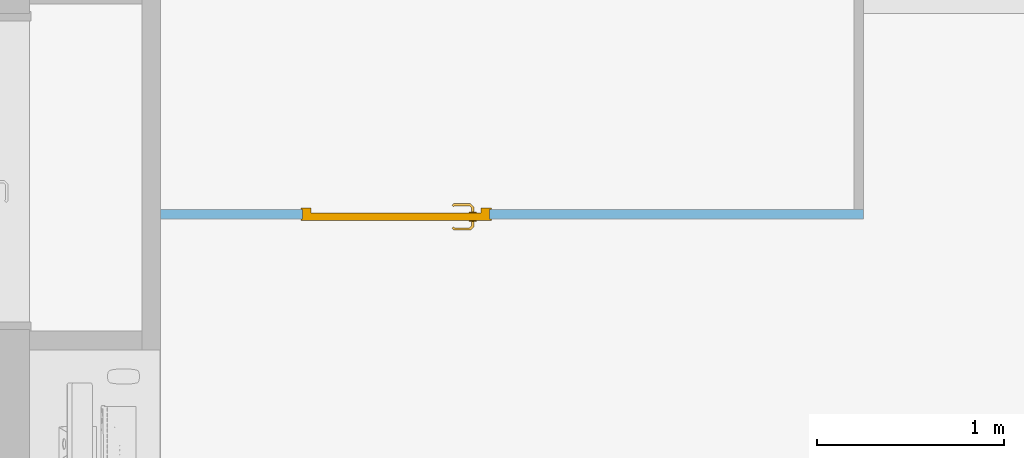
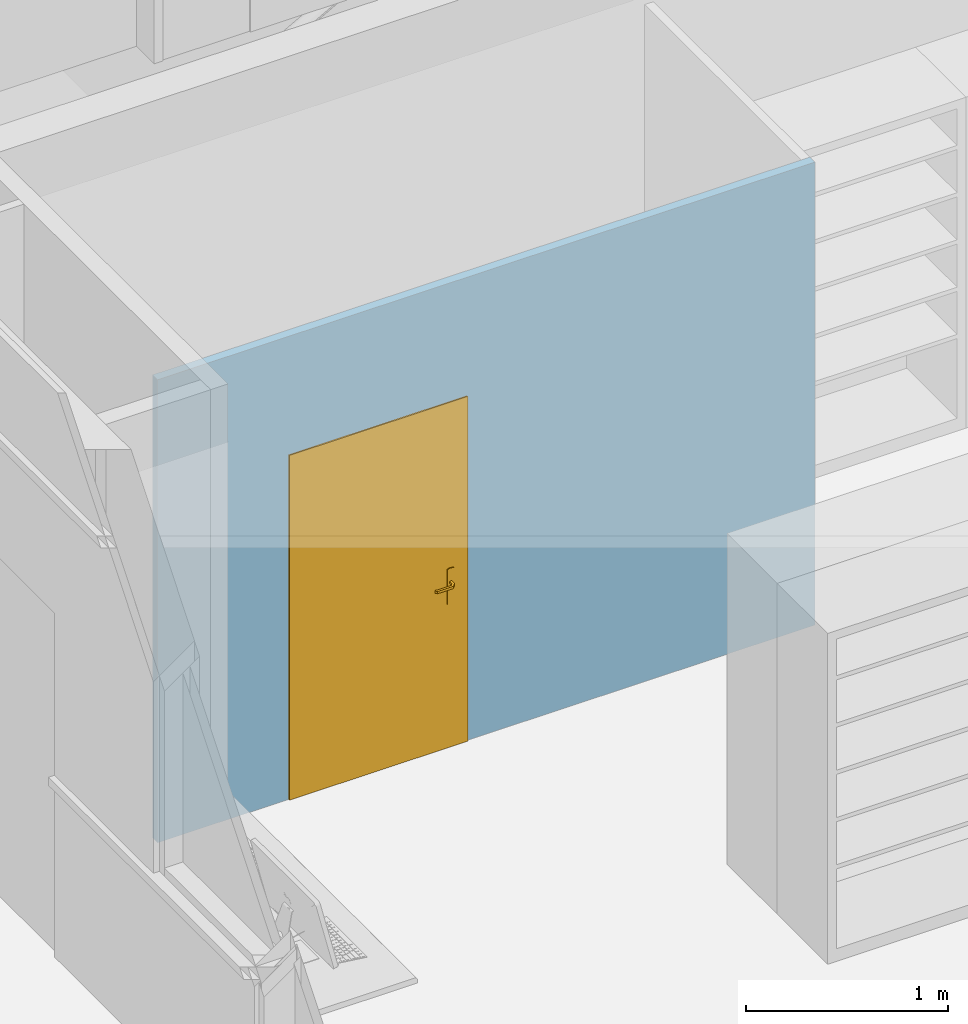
# One storey, part 98 of 137: 1 door, 1 opening, plus 1 element that does not belong to this part.
"""IFC2X3 building model written with IfcOpenShell, lengths in centimetres."""

from ifc_helpers import new_model, entity, si_unit, converted_unit, derived_unit, direction, frame, frame_2d, origin, place, context, subcontext, project, spatial, rectangle, extrude, faceted_brep, source, transform, mapped, material, material_list, layer, layer_set, layer_usage, type_object, type_shapes, element, fill, save


model = new_model("IFC2X3")

# Units and contexts
model_context = context("Model", 3, precision=0.001, world=origin(), true_north=direction((6.12303176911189e-17, 1.0)))
body_context = subcontext(model_context, "Body", "Model", "MODEL_VIEW")
ifc_project = project(units=[si_unit("LENGTHUNIT", "METRE", prefix="CENTI"), si_unit("AREAUNIT", "SQUARE_METRE"), si_unit("VOLUMEUNIT", "CUBIC_METRE"), converted_unit("PLANEANGLEUNIT", "DEGREE", entity("IfcRatioMeasure", 0.0174532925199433), si_unit("PLANEANGLEUNIT", "RADIAN"), dimensions=[0, 0, 0, 0, 0, 0, 0]), si_unit("MASSUNIT", "GRAM", prefix="KILO"), si_unit("TIMEUNIT", "SECOND"), si_unit("FREQUENCYUNIT", "HERTZ"), si_unit("THERMODYNAMICTEMPERATUREUNIT", "DEGREE_CELSIUS"), derived_unit("THERMALTRANSMITTANCEUNIT", [(si_unit("MASSUNIT", "GRAM", prefix="KILO"), 1), (si_unit("THERMODYNAMICTEMPERATUREUNIT", "KELVIN"), -1), (si_unit("TIMEUNIT", "SECOND"), -3)]), derived_unit("VOLUMETRICFLOWRATEUNIT", [(si_unit("LENGTHUNIT", "METRE"), 3), (si_unit("TIMEUNIT", "SECOND"), -1)]), si_unit("ELECTRICCURRENTUNIT", "AMPERE"), si_unit("ELECTRICVOLTAGEUNIT", "VOLT"), si_unit("POWERUNIT", "WATT"), si_unit("FORCEUNIT", "NEWTON", prefix="KILO"), si_unit("ILLUMINANCEUNIT", "LUX"), si_unit("LUMINOUSFLUXUNIT", "LUMEN"), si_unit("LUMINOUSINTENSITYUNIT", "CANDELA"), derived_unit("USERDEFINED", [(si_unit("MASSUNIT", "GRAM", prefix="KILO"), -1), (si_unit("LENGTHUNIT", "METRE"), -2), (si_unit("TIMEUNIT", "SECOND"), 3), (si_unit("LUMINOUSFLUXUNIT", "LUMEN"), 1)]), derived_unit("LINEARVELOCITYUNIT", [(si_unit("LENGTHUNIT", "METRE"), 1), (si_unit("TIMEUNIT", "SECOND"), -1)]), si_unit("PRESSUREUNIT", "PASCAL"), derived_unit("USERDEFINED", [(si_unit("LENGTHUNIT", "METRE"), -2), (si_unit("MASSUNIT", "GRAM", prefix="KILO"), 1), (si_unit("TIMEUNIT", "SECOND"), -2)])], contexts=[model_context])

# Site, building, storey
site_placement = place(None, frame((8.62739174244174, -249.285249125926, 0.0)))
site = spatial("IfcSite", under=ifc_project, at=site_placement, Name="Default", CompositionType="ELEMENT")
building_placement = place(site_placement, origin())
building = spatial("IfcBuilding", under=site, at=building_placement, CompositionType="ELEMENT")
storey_placement = place(building_placement, origin())
storey = spatial("IfcBuildingStorey", under=building, at=storey_placement, Name="RDC", CompositionType="ELEMENT", Elevation=-8.82465566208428e-11)

# Wall, opening, door
ifc_material_1 = material(Name="Plâtre")
ifc_layer = layer(ifc_material_1, 5.0)
ifc_layer_set = layer_set([ifc_layer], Name="Mur de base:PLA 5")
ifc_layer_usage = layer_usage(ifc_layer_set, "AXIS2", "NEGATIVE", 2.5)
wall_type = type_object("IfcWallType", Name="Mur de base:PLA 5", PredefinedType="STANDARD", material=ifc_layer_set)
wall_placement = place(storey_placement, frame((3123.9048277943, 4525.48020813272, 0.0)))
wall = element("IfcWallStandardCase", 1, at=wall_placement, inside=storey, type_object=wall_type, material=ifc_layer_usage, Name="Mur de base:PLA 5", ObjectType="Mur de base:PLA 5", context=body_context, shape_type="SweptSolid", body=[
    extrude(rectangle(XDim=376.000000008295, YDim=5.0000000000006, at=frame_2d((188.000000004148, 0.0), x_axis=(-1.0, 0.0))), origin(), (0.0, 0.0, 1.0), 279.999999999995),
])
opening_placement = place(wall_placement, frame((176.0, 2.5, 0.0)))
opening = element("IfcOpeningElement", 2, at=opening_placement, cuts=wall, Name="Simple(R)_bois_mu:93 x 204 cm:1", ObjectType="Opening", context=body_context, shape_type="SweptSolid", body=[
    extrude(rectangle(XDim=207.499999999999, YDim=99.9999999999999, at=frame_2d((103.749999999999, 50.0), x_axis=(1.0, 0.0))), frame((0.0, 0.0, 0.0), z_axis=(0.0, -1.0, 0.0), x_axis=(0.0, 0.0, 1.0)), (0.0, 0.0, 1.0), 5.0),
])
ifc_material_2 = material(Name="Porte - Poignée")
ifc_material_3 = material(Name="Porte - Cadre")
ifc_material_4 = material(Name="Porte - Panneau")
ifc_material_list_1 = material_list([ifc_material_2, ifc_material_3, ifc_material_4])
ifc_material_list_2 = material_list([ifc_material_2, ifc_material_3, ifc_material_4])
door_style = type_object("IfcDoorStyle", Name="93 x 204 cm", ConstructionType="NOTDEFINED", OperationType="SINGLE_SWING_LEFT", ParameterTakesPrecedence=False, Sizeable=False, material=ifc_material_list_2)
shared_shape = source(origin(), body_context, "Body", "Brep", [
    faceted_brep([(92.2025298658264, 3.69999999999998, 100.778044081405), (91.7974701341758, 3.69999999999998, 100.778044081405), (91.3999999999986, 3.69999999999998, 100.699999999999), (91.4000000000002, 3.69999999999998, 99.3000000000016), (91.7974701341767, 3.69999999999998, 99.2219559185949), (92.2025298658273, 3.69999999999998, 99.2219559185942), (92.6000000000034, 3.69999999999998, 99.2999999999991), (92.600000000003, 3.69999999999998, 100.699999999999), (91.3999999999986, 5.94852045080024, 100.699999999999), (91.3999999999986, 5.94852045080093, 99.3000000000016), (91.7974701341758, 6.1131579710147, 100.778044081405), (92.2025298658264, 6.2809392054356, 100.778044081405), (90.5838906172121, 7.89957845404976, 100.778044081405), (90.4161093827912, 7.49451872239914, 100.778044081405), (82.0793122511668, 7.49451872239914, 100.778044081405), (81.911531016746, 7.89957845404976, 100.778044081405), (81.1451046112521, 7.13315204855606, 100.778044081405), (81.4315250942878, 6.84673156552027, 100.778044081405), (92.600000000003, 6.44557672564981, 100.699999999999), (92.6000000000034, 6.44557672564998, 99.2999999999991), (92.2025298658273, 6.28093920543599, 99.2219559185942), (91.7974701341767, 6.11315797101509, 99.2219559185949), (90.4161093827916, 7.49451872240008, 99.2219559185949), (90.5838906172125, 7.8995784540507, 99.2219559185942), (81.9115310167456, 7.8995784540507, 99.2219559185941), (82.0793122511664, 7.49451872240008, 99.2219559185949), (81.4315250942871, 6.84673156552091, 99.2219559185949), (81.1451046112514, 7.13315204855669, 99.2219559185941), (90.2514718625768, 7.09704858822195, 100.699999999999), (90.2514718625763, 7.09704858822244, 99.3000000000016), (90.7485281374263, 8.29704858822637, 100.699999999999), (90.7485281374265, 8.29704858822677, 99.2999999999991), (86.247710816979, 7.09704858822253, 100.699999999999), (82.2439497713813, 7.09704858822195, 100.699999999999), (82.2439497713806, 7.09704858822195, 99.3000000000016), (86.247710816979, 7.09704858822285, 99.3000000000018), (86.2477108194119, 7.71249275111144, 100.787811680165), (85.7399422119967, 8.29704858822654, 100.699999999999), (81.7468934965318, 8.29704858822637, 100.699999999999), (86.7554791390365, 8.29704858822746, 99.2999999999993), (81.7468934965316, 8.29704858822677, 99.2999999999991), (86.2477107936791, 7.71249274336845, 99.2121883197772), (80.8640507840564, 7.41420587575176, 100.699999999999), (80.8640507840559, 7.41420587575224, 99.2999999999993), (81.7125789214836, 6.5656777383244, 99.3000000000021), (81.7125789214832, 6.56567773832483, 100.699999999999)], [[[0, 1, 2, 3, 4, 5, 6, 7]], [[8, 9, 3, 2]], [[1, 10, 8, 2]], [[1, 0, 11, 12, 13, 10]], [[14, 15, 16, 17]], [[7, 18, 11, 0]], [[18, 7, 6, 19]], [[6, 5, 20, 19]], [[5, 4, 21, 22, 23, 20]], [[24, 25, 26, 27]], [[4, 3, 9, 21]], [[28, 29, 9, 8]], [[8, 10, 13, 28]], [[18, 30, 12, 11]], [[31, 30, 18, 19]], [[19, 20, 23, 31]], [[21, 9, 29, 22]], [[29, 28, 32, 33, 34, 35]], [[36, 32, 13]], [[37, 38, 15]], [[37, 12, 30]], [[36, 12, 37]], [[14, 32, 36]], [[36, 15, 14]], [[28, 13, 32]], [[32, 14, 33]], [[12, 36, 13]], [[15, 36, 37]], [[30, 31, 39, 40, 38, 37]], [[23, 41, 39]], [[24, 39, 41]], [[39, 31, 23]], [[39, 24, 40]], [[22, 35, 41]], [[41, 23, 22]], [[41, 35, 25]], [[35, 22, 29]], [[34, 25, 35]], [[24, 41, 25]], [[17, 16, 42, 43, 27, 26, 44, 45]], [[45, 44, 34, 33]], [[33, 14, 17, 45]], [[15, 38, 42, 16]], [[43, 42, 38, 40]], [[24, 27, 43, 40]], [[34, 44, 26, 25]]]),
    faceted_brep([(91.7974701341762, -1.30000000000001, 100.778044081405), (92.2025298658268, -1.30000000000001, 100.778044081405), (92.6000000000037, -1.30000000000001, 100.699999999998), (92.6000000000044, -1.30000000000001, 99.2999999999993), (92.2025298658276, -1.30000000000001, 99.2219559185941), (91.797470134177, -1.30000000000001, 99.2219559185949), (91.3999999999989, -1.30000000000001, 99.3000000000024), (91.3999999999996, -1.30000000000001, 100.699999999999), (92.2025298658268, -3.90045754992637, 100.778044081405), (92.6000000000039, -4.06509507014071, 100.699999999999), (91.7974701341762, -3.73267631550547, 100.778044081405), (90.4298602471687, -5.10028620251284, 100.778044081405), (90.5976414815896, -5.50534593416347, 100.778044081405), (81.9142453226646, -5.50534593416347, 100.778044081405), (82.0820265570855, -5.10028620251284, 100.778044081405), (81.4342394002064, -4.4524990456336, 100.778044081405), (81.1478189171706, -4.73891952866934, 100.778044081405), (91.3999999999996, -3.56803879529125, 100.699999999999), (91.3999999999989, -3.56803879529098, 99.3000000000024), (91.797470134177, -3.7326763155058, 99.2219559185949), (92.2025298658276, -3.9004575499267, 99.2219559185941), (90.5976414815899, -5.50534593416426, 99.2219559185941), (90.429860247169, -5.10028620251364, 99.2219559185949), (82.0820265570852, -5.10028620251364, 99.2219559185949), (81.9142453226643, -5.50534593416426, 99.2219559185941), (81.14781891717, -4.73891952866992, 99.2219559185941), (81.4342394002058, -4.45249904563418, 99.2219559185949), (92.6000000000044, -4.06509507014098, 99.2999999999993), (90.762279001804, -5.90281606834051, 100.699999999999), (90.2652227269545, -4.70281606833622, 100.699999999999), (90.2652227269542, -4.70281606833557, 99.3000000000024), (90.7622790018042, -5.90281606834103, 99.2999999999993), (86.2559433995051, -5.31828027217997, 100.787811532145), (86.769230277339, -5.90281606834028, 100.699999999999), (81.7496078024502, -5.90281606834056, 100.699999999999), (86.255943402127, -4.70281606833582, 100.699999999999), (82.2466640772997, -4.70281606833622, 100.699999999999), (86.2559436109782, -4.70281606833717, 99.3000000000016), (82.2466640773, -4.70281606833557, 99.3000000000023), (86.2559434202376, -5.31828027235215, 99.2121884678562), (85.7426572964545, -5.90281606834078, 99.2999999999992), (81.74960780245, -5.90281606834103, 99.2999999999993), (81.7152932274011, -4.17144521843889, 99.3000000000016), (80.8667650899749, -5.01997335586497, 99.2999999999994), (80.8667650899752, -5.01997335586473, 100.699999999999), (81.7152932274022, -4.17144521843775, 100.699999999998)], [[[0, 1, 2, 3, 4, 5, 6, 7]], [[2, 1, 8, 9]], [[1, 0, 10, 11, 12, 8]], [[13, 14, 15, 16]], [[0, 7, 17, 10]], [[18, 17, 7, 6]], [[5, 19, 18, 6]], [[5, 4, 20, 21, 22, 19]], [[23, 24, 25, 26]], [[3, 27, 20, 4]], [[9, 27, 3, 2]], [[9, 8, 12, 28]], [[10, 17, 29, 11]], [[30, 29, 17, 18]], [[18, 19, 22, 30]], [[20, 27, 31, 21]], [[28, 31, 27, 9]], [[12, 32, 33]], [[13, 33, 32]], [[33, 28, 12]], [[33, 13, 34]], [[11, 35, 32]], [[32, 12, 11]], [[32, 35, 14]], [[35, 11, 29]], [[36, 14, 35]], [[13, 32, 14]], [[29, 30, 37, 38, 36, 35]], [[39, 37, 22]], [[40, 41, 24]], [[40, 21, 31]], [[39, 21, 40]], [[23, 37, 39]], [[39, 24, 23]], [[30, 22, 37]], [[37, 23, 38]], [[21, 39, 22]], [[24, 39, 40]], [[31, 28, 33, 34, 41, 40]], [[42, 26, 25, 43, 44, 16, 15, 45]], [[13, 16, 44, 34]], [[36, 45, 15, 14]], [[42, 45, 36, 38]], [[38, 23, 26, 42]], [[24, 41, 43, 25]], [[44, 43, 41, 34]]]),
    faceted_brep([(92.0, 3.19999999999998, 86.4641016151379), (93.0352761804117, 3.19999999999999, 86.6003983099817), (94.0, 3.19999999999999, 87.0), (94.0, 3.19999999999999, 108.0), (93.0352761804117, 3.19999999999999, 108.399601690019), (92.0, 3.19999999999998, 108.535898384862), (90.9647238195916, 3.19999999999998, 108.399601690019), (90.0, 3.19999999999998, 108.0), (90.0, 3.19999999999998, 87.0), (90.9647238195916, 3.19999999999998, 86.6003983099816), (92.0, 3.69999999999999, 108.535898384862), (93.0352761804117, 3.69999999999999, 108.399601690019), (94.0, 3.69999999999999, 108.0), (94.0, 3.69999999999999, 87.0), (93.0352761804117, 3.69999999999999, 86.6003983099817), (92.0, 3.69999999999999, 86.4641016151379), (90.9647238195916, 3.69999999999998, 86.6003983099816), (90.0, 3.69999999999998, 87.0), (90.0, 3.69999999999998, 108.0), (90.9647238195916, 3.69999999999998, 108.399601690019)], [[[0, 1, 2, 3, 4, 5, 6, 7, 8, 9]], [[10, 11, 12, 13, 14, 15, 16, 17, 18, 19]], [[6, 19, 18, 7]], [[5, 10, 19, 6]], [[4, 11, 10, 5]], [[4, 3, 12, 11]], [[12, 3, 2, 13]], [[1, 14, 13, 2]], [[0, 15, 14, 1]], [[9, 16, 15, 0]], [[9, 8, 17, 16]], [[17, 8, 7, 18]]]),
    faceted_brep([(92.0, -1.30000000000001, 86.4641016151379), (93.0352761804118, -1.30000000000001, 86.6003983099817), (94.0, -1.30000000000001, 87.0), (94.0, -1.30000000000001, 108.0), (93.0352761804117, -1.30000000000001, 108.399601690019), (92.0, -1.30000000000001, 108.535898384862), (90.9647238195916, -1.30000000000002, 108.399601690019), (90.0, -1.30000000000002, 108.0), (90.0, -1.30000000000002, 87.0), (90.9647238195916, -1.30000000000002, 86.6003983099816), (94.0, -0.800000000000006, 108.0), (94.0, -0.800000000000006, 87.0), (93.0352761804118, -0.800000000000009, 86.6003983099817), (92.0, -0.800000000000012, 86.4641016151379), (90.9647238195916, -0.800000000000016, 86.6003983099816), (90.0, -0.800000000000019, 87.0), (90.0, -0.800000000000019, 108.0), (90.9647238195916, -0.800000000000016, 108.399601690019), (92.0, -0.800000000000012, 108.535898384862), (93.0352761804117, -0.800000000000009, 108.399601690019)], [[[0, 1, 2, 3, 4, 5, 6, 7, 8, 9]], [[10, 11, 12, 13, 14, 15, 16, 17, 18, 19]], [[1, 12, 11, 2]], [[0, 13, 12, 1]], [[9, 14, 13, 0]], [[9, 8, 15, 14]], [[15, 8, 7, 16]], [[6, 17, 16, 7]], [[5, 18, 17, 6]], [[4, 19, 18, 5]], [[4, 3, 10, 19]], [[10, 3, 2, 11]]]),
    faceted_brep([(101.0, 0.0, 0.0), (102.0, 0.0, 0.0), (102.0, -0.799999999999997, 0.0), (97.5000000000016, -0.799999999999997, 0.0), (97.5000000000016, 3.2, 0.0), (96.5000000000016, 3.2, 0.0), (96.5000000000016, 5.80000000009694, 0.0), (102.0, 5.80000000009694, 0.0), (102.0, 5.0, 0.0), (101.0, 5.0, 0.0), (101.0, 5.0, 207.499999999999), (101.0, 0.0, 207.499999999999), (102.0, 5.0, 208.499999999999), (0.0, 5.0, 208.499999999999), (0.0, 5.0, 0.0), (1.0, 5.0, 0.0), (1.0, 5.0, 207.499999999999), (102.0, 5.80000000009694, 208.499999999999), (96.5000000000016, 5.80000000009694, 203.0), (5.50000000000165, 5.80000000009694, 203.0), (5.50000000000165, 5.80000000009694, 0.0), (0.0, 5.80000000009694, 0.0), (0.0, 5.80000000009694, 208.499999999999), (96.5000000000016, 3.2, 203.0), (97.5000000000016, 3.2, 204.0), (4.50000000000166, 3.2, 204.0), (4.50000000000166, 3.2, 0.0), (5.50000000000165, 3.2, 0.0), (5.50000000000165, 3.2, 203.0), (97.5000000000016, -0.799999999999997, 204.0), (102.0, -0.799999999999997, 208.499999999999), (0.0, -0.799999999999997, 208.499999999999), (0.0, -0.799999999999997, 0.0), (4.50000000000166, -0.799999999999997, 0.0), (4.50000000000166, -0.799999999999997, 204.0), (102.0, 0.0, 208.499999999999), (1.0, 0.0, 207.499999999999), (1.0, 0.0, 0.0), (0.0, 0.0, 0.0), (0.0, 0.0, 208.499999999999)], [[[0, 1, 2, 3, 4, 5, 6, 7, 8, 9]], [[9, 10, 11, 0]], [[8, 12, 13, 14, 15, 16, 10, 9]], [[7, 17, 12, 8]], [[6, 18, 19, 20, 21, 22, 17, 7]], [[5, 23, 18, 6]], [[4, 24, 25, 26, 27, 28, 23, 5]], [[3, 29, 24, 4]], [[2, 30, 31, 32, 33, 34, 29, 3]], [[1, 35, 30, 2]], [[0, 11, 36, 37, 38, 39, 35, 1]], [[16, 15, 37, 36]], [[37, 15, 14, 21, 20, 27, 26, 33, 32, 38]], [[22, 21, 14, 13]], [[28, 27, 20, 19]], [[34, 33, 26, 25]], [[39, 38, 32, 31]], [[10, 16, 36, 11]], [[17, 22, 13, 12]], [[23, 28, 19, 18]], [[29, 34, 25, 24]], [[35, 39, 31, 30]]]),
    faceted_brep([(97.5000000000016, -0.799999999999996, 204.0), (4.50000000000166, -0.799999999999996, 204.0), (4.50000000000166, -0.799999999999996, 0.0), (97.5000000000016, -0.799999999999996, 0.0), (97.5000000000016, 3.2, 204.0), (97.5000000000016, 3.2, 0.0), (4.50000000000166, 3.2, 0.0), (4.50000000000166, 3.2, 204.0)], [[[0, 1, 2, 3]], [[4, 5, 6, 7]], [[3, 5, 4, 0]], [[2, 6, 5, 3]], [[1, 7, 6, 2]], [[0, 4, 7, 1]]]),
])
type_shapes(door_style, [shared_shape])
door_placement = place(opening_placement, frame((-101.0, -5.0, 0.0)))
door = element("IfcDoor", 3, at=door_placement, inside=storey, type_object=door_style, material=ifc_material_list_1, Name="Simple(R)_bois_mu:93 x 204 cm", ObjectType="93 x 204 cm", OverallHeight=207.499999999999, OverallWidth=99.9999999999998, context=body_context, shape_type="MappedRepresentation", body=[
    mapped(shared_shape, transform((0.0, 0.0, 0.0), scale=1.0)),
])
fill(opening, door)

save(model, "model.ifc")
